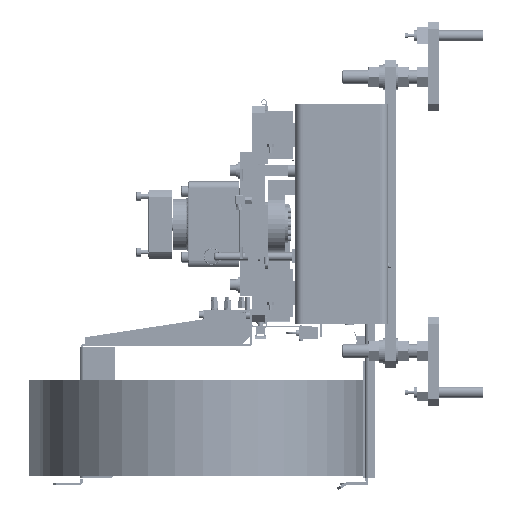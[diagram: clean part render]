
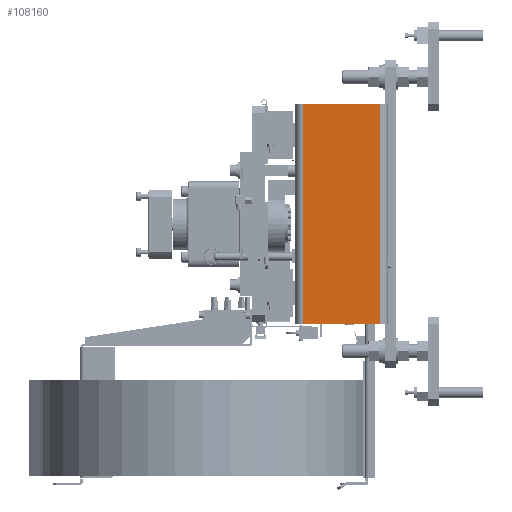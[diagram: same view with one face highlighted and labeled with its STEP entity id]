
A CAD part, left-side view. The second image highlights one B-rep face of the part: STEP entity #108160.
In plain terms, the highlighted planar face has unit normal (-1, 0, 0).
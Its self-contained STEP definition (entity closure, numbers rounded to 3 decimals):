
#673 = CARTESIAN_POINT ( 'NONE',  ( -1497., -7.4, 160. ) ) ;
#15544 = EDGE_CURVE ( 'NONE', #143857, #50075, #93177, .T. ) ;
#17443 = ORIENTED_EDGE ( 'NONE', *, *, #37010, .T. ) ;
#25238 = CARTESIAN_POINT ( 'NONE',  ( -1497., 106., -160. ) ) ;
#25942 = AXIS2_PLACEMENT_3D ( 'NONE', #75314, #142851, #159713 ) ;
#26815 = ORIENTED_EDGE ( 'NONE', *, *, #44343, .F. ) ;
#28254 = DIRECTION ( 'NONE',  ( 0., 0., -1. ) ) ;
#37010 = EDGE_CURVE ( 'NONE', #86762, #50075, #118652, .T. ) ;
#40657 = VECTOR ( 'NONE', #42982, 1000. ) ;
#42982 = DIRECTION ( 'NONE',  ( 0., -1., 0. ) ) ;
#44343 = EDGE_CURVE ( 'NONE', #153505, #143857, #130345, .T. ) ;
#50075 = VERTEX_POINT ( 'NONE', #158194 ) ;
#73001 = VECTOR ( 'NONE', #112136, 1000. ) ;
#74640 = LINE ( 'NONE', #113876, #73001 ) ;
#75314 = CARTESIAN_POINT ( 'NONE',  ( -1497., -7.4, 160. ) ) ;
#86762 = VERTEX_POINT ( 'NONE', #25238 ) ;
#93177 = LINE ( 'NONE', #673, #115334 ) ;
#96336 = EDGE_CURVE ( 'NONE', #153505, #86762, #74640, .T. ) ;
#104570 = ORIENTED_EDGE ( 'NONE', *, *, #15544, .F. ) ;
#105348 = CARTESIAN_POINT ( 'NONE',  ( -1497., -7.4, 160. ) ) ;
#108160 = ADVANCED_FACE ( 'NONE', ( #155342 ), #152731, .F. ) ;
#112136 = DIRECTION ( 'NONE',  ( 0., 0., -1. ) ) ;
#113876 = CARTESIAN_POINT ( 'NONE',  ( -1497., 106., 160. ) ) ;
#115334 = VECTOR ( 'NONE', #28254, 1000. ) ;
#118652 = LINE ( 'NONE', #126537, #40657 ) ;
#126537 = CARTESIAN_POINT ( 'NONE',  ( -1497., -7.4, -160. ) ) ;
#130345 = LINE ( 'NONE', #105348, #158237 ) ;
#133817 = DIRECTION ( 'NONE',  ( 0., -1., 0. ) ) ;
#142851 = DIRECTION ( 'NONE',  ( 1., 0., 0. ) ) ;
#143857 = VERTEX_POINT ( 'NONE', #147511 ) ;
#147511 = CARTESIAN_POINT ( 'NONE',  ( -1497., -7.4, 160. ) ) ;
#152731 = PLANE ( 'NONE',  #25942 ) ;
#153505 = VERTEX_POINT ( 'NONE', #173677 ) ;
#155342 = FACE_OUTER_BOUND ( 'NONE', #161937, .T. ) ;
#158194 = CARTESIAN_POINT ( 'NONE',  ( -1497., -7.4, -160. ) ) ;
#158237 = VECTOR ( 'NONE', #133817, 1000. ) ;
#159713 = DIRECTION ( 'NONE',  ( 0., 1., 0. ) ) ;
#161937 = EDGE_LOOP ( 'NONE', ( #17443, #104570, #26815, #162709 ) ) ;
#162709 = ORIENTED_EDGE ( 'NONE', *, *, #96336, .T. ) ;
#173677 = CARTESIAN_POINT ( 'NONE',  ( -1497., 106., 160. ) ) ;
